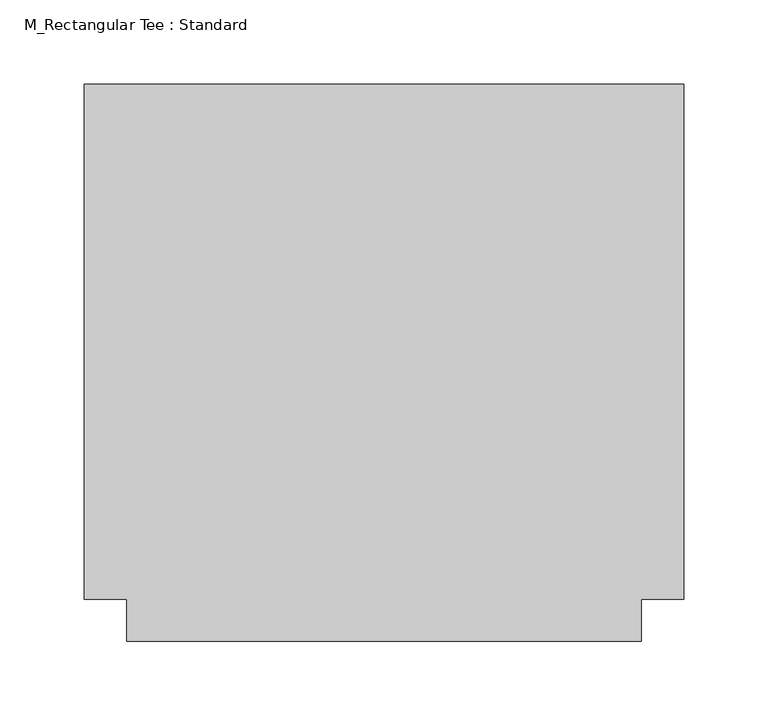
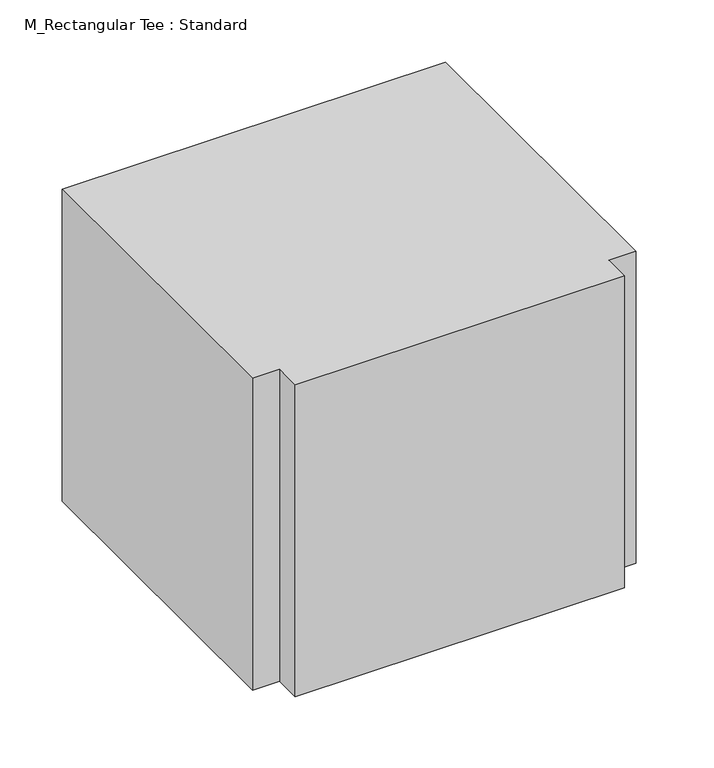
"""IFC4 building model written with IfcOpenShell, lengths in millimetres: duct fitting geometry, M_Rectangular Tee : Standard."""

from ifc_helpers import new_model, si_unit, frame, origin, place, context, project, spatial, polyline, outline, extrude, source, transform, mapped, element, save


def m_rectangular_tee_standard_1feb34d3(model_context):
    return source(origin(), model_context, "Body", "SweptSolid", [
        extrude(outline(polyline([(-177.5, -152.5), (-177.5, 152.5), (177.5, 152.5), (177.5, -152.5), (152.5, -152.5), (152.5, -177.5), (-152.5, -177.5), (-152.5, -152.5), (-177.5, -152.5)])), frame((0.0, 0.0, -152.5), z_axis=(0.0, 0.0, 1.0), x_axis=(1.0, 0.0, 0.0)), (0.0, 0.0, 1.0), 305.0),
    ])


if __name__ == "__main__":
    model = new_model("IFC4")
    model_context = context("Model", 3, world=origin())
    ifc_project = project(units=[si_unit("LENGTHUNIT", "METRE", prefix="MILLI")], contexts=[model_context])
    site = spatial("IfcSite", under=ifc_project)
    building = spatial("IfcBuilding", under=site)
    placement = place(None, origin())
    m_rectangular_tee_standard_shape = m_rectangular_tee_standard_1feb34d3(model_context)
    element("IfcDuctFitting", 1, ObjectType="M_Rectangular Tee : Standard", at=placement, inside=building, context=model_context, shape_type="MappedRepresentation", body=[
        mapped(m_rectangular_tee_standard_shape, transform((0.0, 0.0, 0.0), x_axis=(1.0, 0.0, 0.0), y_axis=(0.0, 1.0, 0.0), z_axis=(0.0, 0.0, 1.0))),
    ])
    save(model, "model.ifc")
